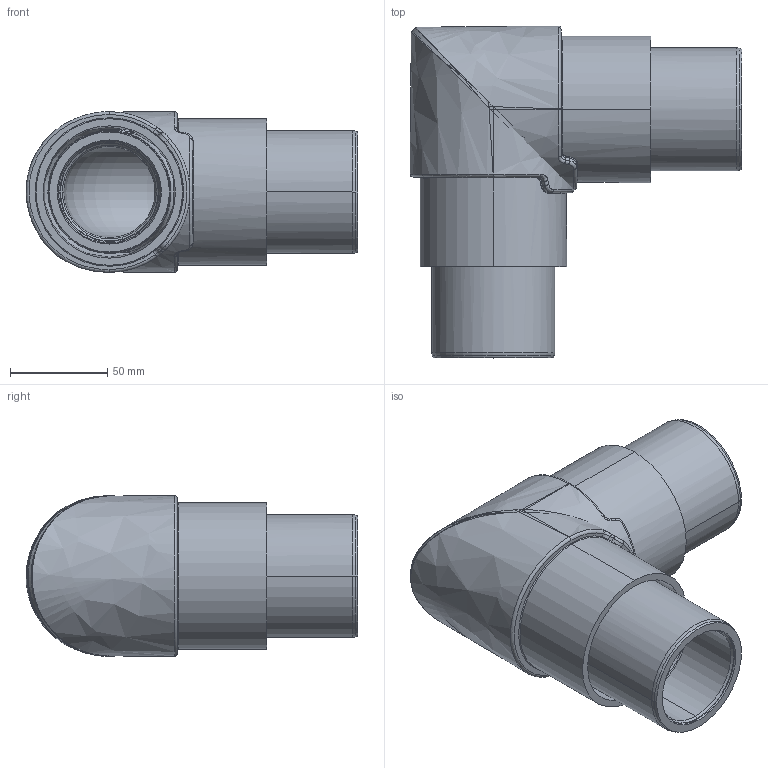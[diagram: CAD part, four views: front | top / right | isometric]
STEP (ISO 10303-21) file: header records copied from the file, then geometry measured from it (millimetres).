
FILE_DESCRIPTION (( 'STEP AP214' ), '1' );
FILE_NAME ('KP 33-75-63SCC.STEP', '2017-04-24T04:41:58', ( '' ), ( '' ), 'SwSTEP 2.0', 'SolidWorks 2017', '' );
FILE_SCHEMA (( 'AUTOMOTIVE_DESIGN' ));
Length unit declared in the file: millimetre
Products named in the file (5): KPH33-75-63SC-02; KPH33-75-63SC Pom hylsa; KPH33-75-63SCA-02; KP 33-75-63SCC; KPH75 outer pipe
Assembly tree (5 placements, depth 3):
  KP 33-75-63SCC
    KPH33-75-63SC-02
      KPH33-75-63SCA-02
      KPH33-75-63SC Pom hylsa
    KPH75 outer pipe  x2
Bounding box: 170.71 x 170.71 x 82.75 mm (x, y, z)
Volume: 489602.8 mm3; surface area: 266417.3 mm2
Topology: 4 solids, 4 shells, 863 faces, 1973 edges, 1252 vertices
Faces by surface type: cylinder 369, plane 225, bspline 149, torus 66, cone 54
Entity records: 31272 total; most frequent: CARTESIAN_POINT 13522, DIRECTION 3747, ORIENTED_EDGE 3614, EDGE_CURVE 1807, AXIS2_PLACEMENT_3D 1623, VERTEX_POINT 1155, EDGE_LOOP 942, CIRCLE 939
